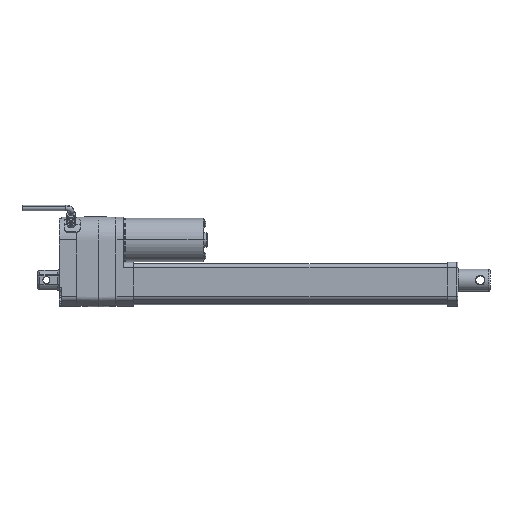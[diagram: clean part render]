
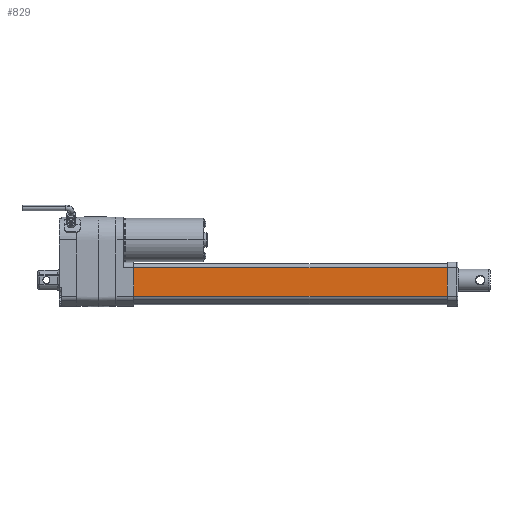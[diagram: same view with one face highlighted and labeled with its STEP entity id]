
A CAD part, top view. The second image highlights one B-rep face of the part: STEP entity #829.
In plain terms, the highlighted planar face has unit normal (0, 0, 1).
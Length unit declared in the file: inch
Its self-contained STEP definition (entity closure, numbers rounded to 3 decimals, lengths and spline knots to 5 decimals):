
#829=ADVANCED_FACE('',(#1756),#1757,.T.);
#1756=FACE_OUTER_BOUND('',#3126,.T.);
#1757=PLANE('',#3127);
#3126=EDGE_LOOP('',(#5581,#5582,#5583,#5584));
#3127=AXIS2_PLACEMENT_3D('',#5585,#5586,#5587);
#5581=ORIENTED_EDGE('',*,*,#7269,.F.);
#5582=ORIENTED_EDGE('',*,*,#6855,.F.);
#5583=ORIENTED_EDGE('',*,*,#7048,.T.);
#5584=ORIENTED_EDGE('',*,*,#7340,.T.);
#5585=CARTESIAN_POINT('',(14.03543,-0.5801,0.76772));
#5586=DIRECTION('',(0.0,-0.0,1.0));
#5587=DIRECTION('',(0.0,1.0,0.0));
#6855=EDGE_CURVE('',#8363,#8359,#8365,.T.);
#7048=EDGE_CURVE('',#8363,#8660,#8662,.T.);
#7269=EDGE_CURVE('',#8359,#8961,#8962,.T.);
#7340=EDGE_CURVE('',#8660,#8961,#9043,.T.);
#8359=VERTEX_POINT('',#10564);
#8363=VERTEX_POINT('',#10569);
#8365=LINE('',#10571,#10572);
#8660=VERTEX_POINT('',#11067);
#8662=LINE('',#11069,#11070);
#8961=VERTEX_POINT('',#11483);
#8962=LINE('',#11484,#11485);
#9043=LINE('',#11591,#11592);
#10564=CARTESIAN_POINT('',(2.69685,-0.5801,0.76772));
#10569=CARTESIAN_POINT('',(14.03543,-0.5801,0.76772));
#10571=CARTESIAN_POINT('',(14.03543,-0.5801,0.76772));
#10572=VECTOR('',#12557,39.37008);
#11067=CARTESIAN_POINT('',(14.03543,0.45276,0.76772));
#11069=CARTESIAN_POINT('',(14.03543,-0.5801,0.76772));
#11070=VECTOR('',#12824,39.37008);
#11483=CARTESIAN_POINT('',(2.69685,0.45276,0.76772));
#11484=CARTESIAN_POINT('',(2.69685,0.45276,0.76772));
#11485=VECTOR('',#13126,39.37008);
#11591=CARTESIAN_POINT('',(14.03543,0.45276,0.76772));
#11592=VECTOR('',#13226,39.37008);
#12557=DIRECTION('',(-1.0,0.0,0.0));
#12824=DIRECTION('',(0.0,1.0,0.0));
#13126=DIRECTION('',(0.0,1.0,0.0));
#13226=DIRECTION('',(-1.0,0.0,0.0));
